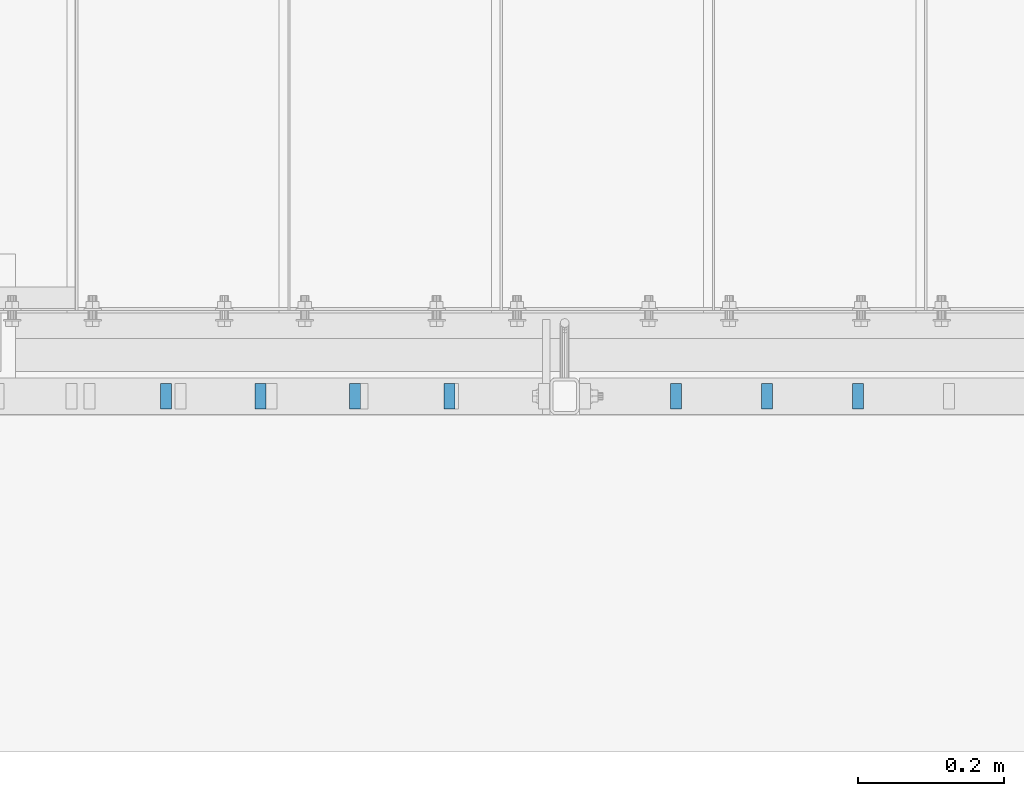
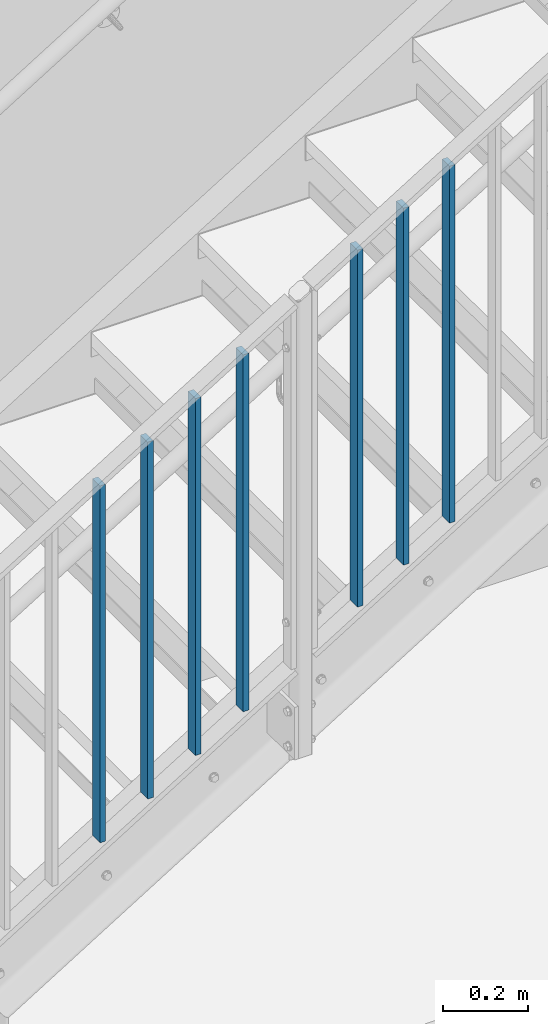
# One storey, part 9 of 410: 7 columns.
"""IFC2X3 building model written with IfcOpenShell, lengths in millimetres."""

from ifc_helpers import new_model, entity, si_unit, converted_unit, frame, origin, origin_with_axes, origin_2d, place, context, project, spatial, rectangle, extrude, material, element, save


model = new_model("IFC2X3")

# Units and contexts
model_context = context("Model", 3, precision=1e-09, world=origin_with_axes())
ifc_project = project(units=[si_unit("LENGTHUNIT", "METRE", prefix="MILLI"), si_unit("AREAUNIT", "SQUARE_METRE"), si_unit("VOLUMEUNIT", "CUBIC_METRE"), converted_unit("PLANEANGLEUNIT", "DEGREE", entity("IfcPlaneAngleMeasure", 0.01745329), si_unit("PLANEANGLEUNIT", "RADIAN"), dimensions=[0, 0, 0, 0, 0, 0, 0])], contexts=[model_context])

# Site, building, storey
site_placement = place(None, origin_with_axes())
site = spatial("IfcSite", under=ifc_project, at=site_placement, Name="mKR Teilneubau & Sanierung BA1 - Ostfildern", CompositionType="ELEMENT")
building_placement = place(site_placement, origin_with_axes())
building = spatial("IfcBuilding", under=site, at=building_placement, Name="Struktur 1", CompositionType="ELEMENT")
storey_placement = place(building_placement, origin_with_axes())
storey = spatial("IfcBuildingStorey", under=building, at=storey_placement, Name="Default Storey", CompositionType="ELEMENT", Elevation=0.0)

# Columns
ifc_material = material(Name="S235JR")
for number, where, z_axis, x_axis in (
    (1, (-1279.569960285, 15405.999999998, -3971.410601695), (0.0, 0.0, -1.0), (1.0, 0.0, 0.0)),
    (2, (-1150.427103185, 15405.999999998, -3891.78735049), (0.0, 0.0, -1.0), (1.0, 0.0, 0.0)),
    (3, (-1021.284246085, 15405.999999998, -3812.164099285), (0.0, 0.0, -1.0), (1.0, 0.0, 0.0)),
    (4, (-892.141388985, 15405.999999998, -3732.54084808), (0.0, 0.0, -1.0), (1.0, 0.0, 0.0)),
    (5, (-582.748531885, 15405.999999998, -3541.784148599), (0.0, 0.0, -1.0), (1.0, 0.0, 0.0)),
    (6, (-458.498531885, 15405.999999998, -3465.177596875), (0.0, 0.0, -1.0), (1.0, 0.0, 0.0)),
    (7, (-334.248531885, 15405.999999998, -3388.571045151), (0.0, 0.0, -1.0), (1.0, 0.0, 0.0)),
):
    element("IfcColumn", number, at=place(None, frame(where, z_axis=z_axis, x_axis=x_axis)), inside=storey, material=ifc_material, Name="-", ObjectType="-", context=model_context, shape_type="SweptSolid", body=[
        extrude(rectangle(XDim=15.0, YDim=35.0, at=origin_2d()), origin(), (0.0, 0.0, -1.0), 1020.264209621),
    ])

save(model, "model.ifc")
